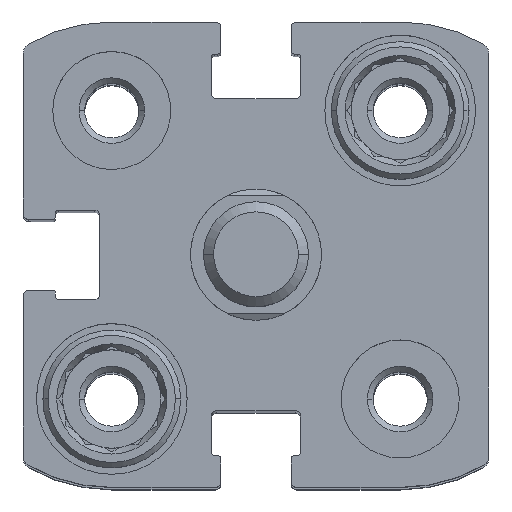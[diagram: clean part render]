
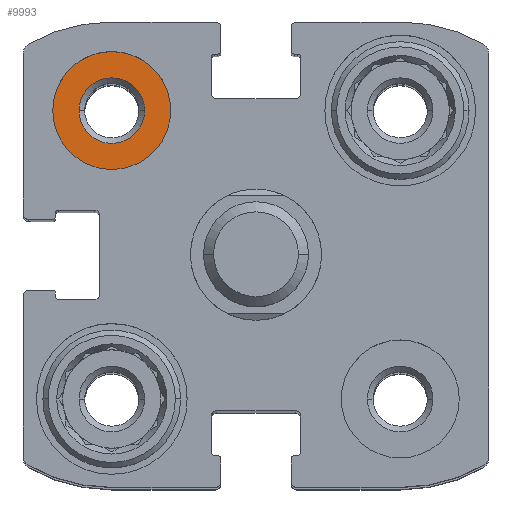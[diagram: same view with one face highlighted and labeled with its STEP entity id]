
A CAD part, top view. The second image highlights one B-rep face of the part: STEP entity #9993.
In plain terms, the highlighted planar face has unit normal (0, 0, 1).
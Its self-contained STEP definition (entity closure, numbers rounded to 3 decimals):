
#100 = DIRECTION ( 'NONE',  ( -1., 0., 0. ) ) ;
#225 = AXIS2_PLACEMENT_3D ( 'NONE', #11869, #1701, #6724 ) ;
#465 = DIRECTION ( 'NONE',  ( 0., 0., 1. ) ) ;
#484 = EDGE_CURVE ( 'NONE', #773, #2884, #12418, .T. ) ;
#747 = DIRECTION ( 'NONE',  ( -1., 0., 0. ) ) ;
#773 = VERTEX_POINT ( 'NONE', #12234 ) ;
#954 = CARTESIAN_POINT ( 'NONE',  ( -6.5, 11., -4.8 ) ) ;
#1701 = DIRECTION ( 'NONE',  ( 0., 0., -1. ) ) ;
#1749 = PLANE ( 'NONE',  #2760 ) ;
#2026 = CARTESIAN_POINT ( 'NONE',  ( -11., 11., -4.8 ) ) ;
#2760 = AXIS2_PLACEMENT_3D ( 'NONE', #5891, #465, #12878 ) ;
#2884 = VERTEX_POINT ( 'NONE', #7577 ) ;
#3670 = EDGE_CURVE ( 'NONE', #10037, #8089, #12546, .T. ) ;
#3692 = EDGE_CURVE ( 'NONE', #8089, #10037, #5002, .T. ) ;
#4506 = AXIS2_PLACEMENT_3D ( 'NONE', #2026, #8067, #747 ) ;
#4675 = EDGE_LOOP ( 'NONE', ( #9795, #13288 ) ) ;
#5002 = CIRCLE ( 'NONE', #12574, 4.5 ) ;
#5176 = ORIENTED_EDGE ( 'NONE', *, *, #3670, .F. ) ;
#5264 = CARTESIAN_POINT ( 'NONE',  ( -11., 11., -4.8 ) ) ;
#5844 = DIRECTION ( 'NONE',  ( 0., 0., -1. ) ) ;
#5891 = CARTESIAN_POINT ( 'NONE',  ( -11., 15.5, -4.8 ) ) ;
#6210 = ORIENTED_EDGE ( 'NONE', *, *, #3692, .F. ) ;
#6724 = DIRECTION ( 'NONE',  ( -1., 0., 0. ) ) ;
#7095 = CIRCLE ( 'NONE', #4506, 2.5 ) ;
#7208 = EDGE_CURVE ( 'NONE', #2884, #773, #7095, .T. ) ;
#7577 = CARTESIAN_POINT ( 'NONE',  ( -13.5, 11., -4.8 ) ) ;
#8067 = DIRECTION ( 'NONE',  ( 0., 0., -1. ) ) ;
#8089 = VERTEX_POINT ( 'NONE', #954 ) ;
#9394 = DIRECTION ( 'NONE',  ( 0., 0., -1. ) ) ;
#9795 = ORIENTED_EDGE ( 'NONE', *, *, #484, .T. ) ;
#9906 = CARTESIAN_POINT ( 'NONE',  ( -11., 11., -4.8 ) ) ;
#9993 = ADVANCED_FACE ( 'NONE', ( #11042, #11852 ), #1749, .T. ) ;
#10037 = VERTEX_POINT ( 'NONE', #11785 ) ;
#11042 = FACE_OUTER_BOUND ( 'NONE', #11946, .T. ) ;
#11785 = CARTESIAN_POINT ( 'NONE',  ( -15.5, 11., -4.8 ) ) ;
#11852 = FACE_BOUND ( 'NONE', #4675, .T. ) ;
#11869 = CARTESIAN_POINT ( 'NONE',  ( -11., 11., -4.8 ) ) ;
#11946 = EDGE_LOOP ( 'NONE', ( #5176, #6210 ) ) ;
#12148 = DIRECTION ( 'NONE',  ( -1., 0., 0. ) ) ;
#12234 = CARTESIAN_POINT ( 'NONE',  ( -8.5, 11., -4.8 ) ) ;
#12418 = CIRCLE ( 'NONE', #12859, 2.5 ) ;
#12546 = CIRCLE ( 'NONE', #225, 4.5 ) ;
#12574 = AXIS2_PLACEMENT_3D ( 'NONE', #9906, #5844, #12148 ) ;
#12859 = AXIS2_PLACEMENT_3D ( 'NONE', #5264, #9394, #100 ) ;
#12878 = DIRECTION ( 'NONE',  ( 1., 0., 0. ) ) ;
#13288 = ORIENTED_EDGE ( 'NONE', *, *, #7208, .T. ) ;
